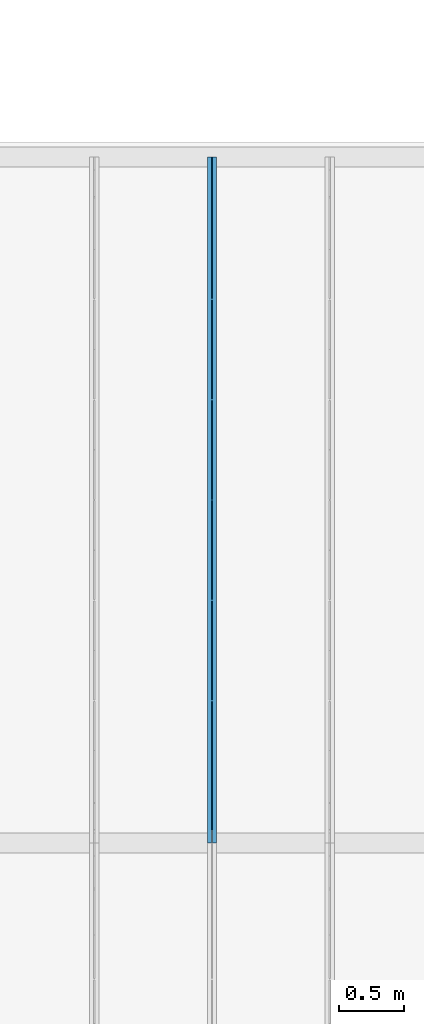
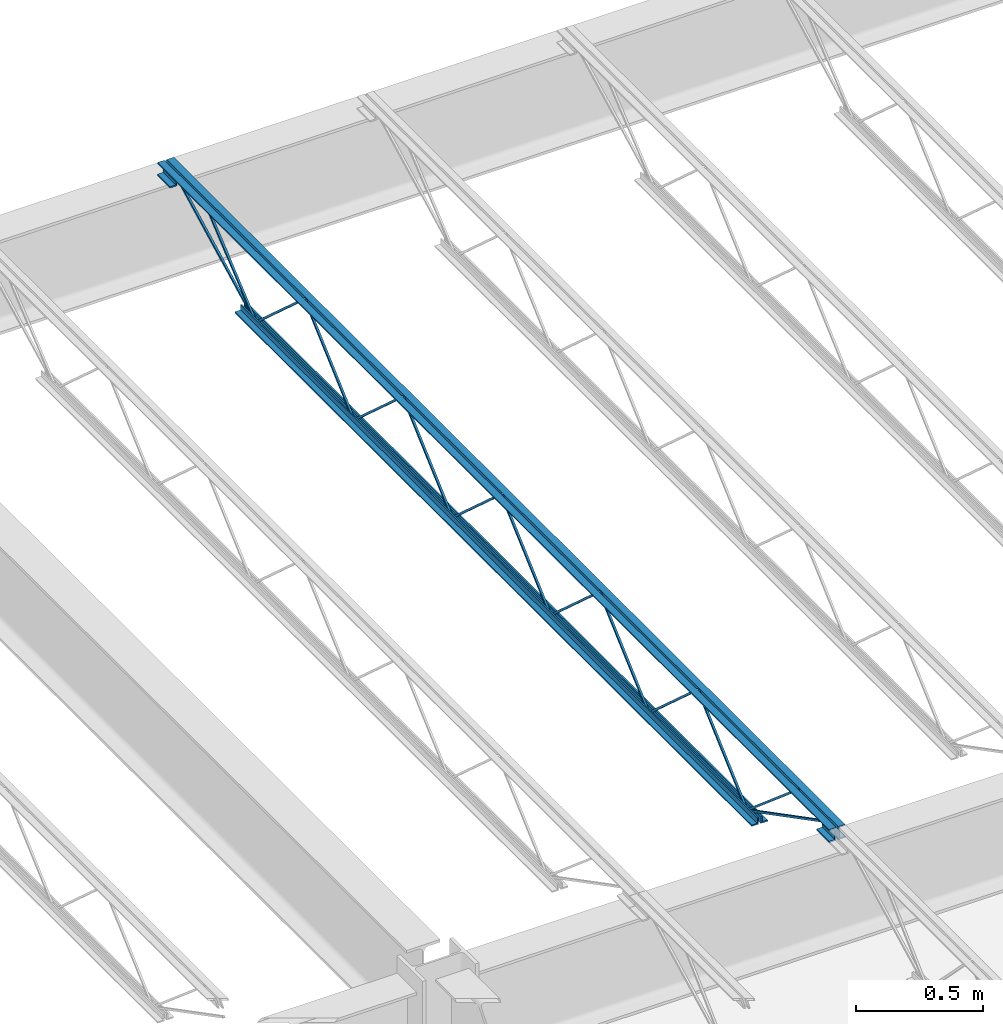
# One storey, part 96 of 119: 1 beam.
"""IFC2X3 building model written with IfcOpenShell, lengths in metres."""

import ifcopenshell
import ifcopenshell.guid

model = None  # the IFC model being written
_history = None  # IfcOwnerHistory: only IFC2X3 demands one
_inside = {}  # id of a spatial element -> (the spatial element, [elements in it])
_under = {}  # id of a project, library or spatial element -> (it, [spatial elements below it])
_declared = {}  # id of a project -> (the project, [libraries it declares])
_typed = {}  # id of a type object -> (the type object, [elements of that type])
_made_of = {}  # id of a material, layer set ... -> (it, [elements and type objects made of it])


def new_model(schema):
    """Start an empty IFC model of exactly this schema.

    Asked for "IFC4X3", IfcOpenShell would pick the latest addendum, in which some entities
    have other attributes; the version numbers below select the first issue.
    IFC2X3 requires an IfcOwnerHistory on every rooted entity: one is made here for all.
    """
    global model, _history
    if schema == "IFC4X3":
        model = ifcopenshell.file(schema_version=(4, 3, 0, 0))
    else:
        model = ifcopenshell.file(schema=schema)
    _inside.clear()
    _under.clear()
    _declared.clear()
    _typed.clear()
    _made_of.clear()
    _history = None
    if model.schema == "IFC2X3":
        org = make("IfcOrganization", Name="unknown")
        user = make(
            "IfcPersonAndOrganization",
            ThePerson=make("IfcPerson", FamilyName="unknown"),
            TheOrganization=org,
        )
        app = make(
            "IfcApplication",
            ApplicationDeveloper=org,
            Version="unknown",
            ApplicationFullName="unknown",
            ApplicationIdentifier="unknown",
        )
        _history = make(
            "IfcOwnerHistory",
            OwningUser=user,
            OwningApplication=app,
            ChangeAction="ADDED",
            CreationDate=0,
        )
    return model


def make(cls, **values):
    """One entity of the class cls with the attributes given. An attribute that is None is left unset."""
    return model.create_entity(
        cls, **{name: value for name, value in values.items() if value is not None}
    )


def entity(cls, *values):
    """Any entity or typed value of the class cls, its attributes in the order of the schema. None: left unset."""
    e = model.create_entity(cls)
    for i, value in enumerate(values):
        if value is not None:
            e[i] = value
    return e


def rooted(cls, **values):
    """An entity with a GlobalId (a new one), such as an element, a storey or a relation."""
    return make(cls, GlobalId=ifcopenshell.guid.new(), OwnerHistory=_history, **values)


def si_unit(unit_type, name, prefix=None):
    """IfcSIUnit, for example si_unit("LENGTHUNIT", "METRE", prefix="MILLI")."""
    return make("IfcSIUnit", UnitType=unit_type, Prefix=prefix, Name=name)


def converted_unit(unit_type, name, factor, base, dimensions=None, offset=None):
    """IfcConversionBasedUnit, such as the inch: factor (a typed value) times the base unit."""
    return make(
        "IfcConversionBasedUnit"
        if offset is None
        else "IfcConversionBasedUnitWithOffset",
        ConversionOffset=offset,
        Dimensions=None
        if dimensions is None
        else entity("IfcDimensionalExponents", *dimensions),
        UnitType=unit_type,
        Name=name,
        ConversionFactor=make(
            "IfcMeasureWithUnit", ValueComponent=factor, UnitComponent=base
        ),
    )


def assignment(units):
    """IfcUnitAssignment: the units of a project."""
    return None if units is None else make("IfcUnitAssignment", Units=units)


def point(xyz):
    """IfcCartesianPoint."""
    return None if xyz is None else make("IfcCartesianPoint", Coordinates=xyz)


def direction(xyz):
    """IfcDirection."""
    return None if xyz is None else make("IfcDirection", DirectionRatios=xyz)


def frame(location, z_axis=None, x_axis=None):
    """IfcAxis2Placement3D, a coordinate frame: its origin and axes. An axis left out is left unset."""
    return make(
        "IfcAxis2Placement3D",
        Location=point(location),
        Axis=direction(z_axis),
        RefDirection=direction(x_axis),
    )


def origin():
    """The frame at (0, 0, 0) with its axes left unset."""
    return frame((0.0, 0.0, 0.0))


def place(relative_to, where):
    """IfcLocalPlacement: puts the frame where relative to a parent placement (None: the world)."""
    return make(
        "IfcLocalPlacement", PlacementRelTo=relative_to, RelativePlacement=where
    )


def context(
    kind, dimensions, precision=None, world=None, true_north=None, identifier=None
):
    """IfcGeometricRepresentationContext, for example the 3D "Model" context."""
    return make(
        "IfcGeometricRepresentationContext",
        ContextIdentifier=identifier,
        ContextType=kind,
        CoordinateSpaceDimension=dimensions,
        Precision=precision,
        WorldCoordinateSystem=world,
        TrueNorth=true_north,
    )


def project(units=None, contexts=None):
    """IfcProject with its units and contexts."""
    return rooted(
        "IfcProject",
        Name="project",
        RepresentationContexts=contexts,
        UnitsInContext=assignment(units),
    )


def spatial(cls, under=None, at=None, **own):
    """A site, building, storey or space (cls), placed at a placement, below another one or the project."""
    s = rooted(cls, ObjectPlacement=at, **own)
    if under is not None:
        _under.setdefault(under.id(), (under, []))[1].append(s)
    return s


def faces_of(points, faces, orient=None, outer=None):
    """IfcFace entities. A face is a list of loops; a loop is a list of indices into points, from 0.

    orient and outer hold one flag for each loop. By default every Orientation is true, the
    first loop of a face is its IfcFaceOuterBound and the others are IfcFaceBound.
    """
    made = []
    for i, loops in enumerate(faces):
        bounds = []
        for j, loop in enumerate(loops):
            is_outer = j == 0 if outer is None else outer[i][j]
            bounds.append(
                make(
                    "IfcFaceOuterBound" if is_outer else "IfcFaceBound",
                    Bound=make("IfcPolyLoop", Polygon=[points[k] for k in loop]),
                    Orientation=True if orient is None else orient[i][j],
                )
            )
        made.append(make("IfcFace", Bounds=bounds))
    return made


def face_set(faces, orient=None, outer=None):
    """The faces of one IfcConnectedFaceSet. surface_model builds it on its shared points."""
    return ("IfcConnectedFaceSet", faces, orient, outer)


def surface_model(cls, points, shells):
    """IfcFaceBasedSurfaceModel or IfcShellBasedSurfaceModel (cls): surfaces that need not close."""
    shared = [point(p) for p in points]
    made = [make(c, CfsFaces=faces_of(shared, fs, o, b)) for c, fs, o, b in shells]
    if cls == "IfcFaceBasedSurfaceModel":
        return make(cls, FbsmFaces=made)
    return make(cls, SbsmBoundary=made)


def shape(context_of_items, identifier, shape_type, items):
    """IfcShapeRepresentation: the items that make up one representation, for example the "Body"."""
    return make(
        "IfcShapeRepresentation",
        ContextOfItems=context_of_items,
        RepresentationIdentifier=identifier,
        RepresentationType=shape_type,
        Items=items,
    )


def made_of(thing, what):
    """Note that an element or type object is made of a material, layer set ...; save() writes the relation."""
    if what is not None:
        _made_of.setdefault(what.id(), (what, []))[1].append(thing)
    return thing


def element(
    cls,
    number,
    at=None,
    inside=None,
    cuts=None,
    type_object=None,
    material=None,
    context=None,
    identifier="Body",
    shape_type=None,
    held_by="IfcProductDefinitionShape",
    body=None,
    shapes=None,
    **own,
):
    """One element of the class cls, such as IfcWall. Its Tag is "e" and its number.

    at: its placement. inside: the storey or other place that contains it. cuts: it is an
    opening in that element (IfcRelVoidsElement). A single representation is given by context,
    identifier, shape_type and body (its items); several are given by shapes. held_by: the class
    of the entity that holds the representations. save() writes the other relations.
    """
    e = rooted(cls, Tag="e%d" % number, ObjectPlacement=at, **own)
    if body is not None:
        shapes = [shape(context, identifier, shape_type, body)]
    if shapes is not None:
        e.Representation = make(held_by, Representations=shapes)
    if inside is not None:
        _inside.setdefault(inside.id(), (inside, []))[1].append(e)
    if cuts is not None:
        rooted(
            "IfcRelVoidsElement", RelatingBuildingElement=cuts, RelatedOpeningElement=e
        )
    if type_object is not None:
        _typed.setdefault(type_object.id(), (type_object, []))[1].append(e)
    return made_of(e, material)


def aggregate(whole, parts):
    """IfcRelAggregates: a whole, such as a stair, and the parts it consists of."""
    return rooted("IfcRelAggregates", RelatingObject=whole, RelatedObjects=parts)


def save(model, path):
    """Write the relations noted so far, then the file.

    IfcRelAggregates (storeys below a building ...), IfcRelContainedInSpatialStructure (elements
    in a storey), IfcRelDefinesByType, IfcRelAssociatesMaterial and IfcRelDeclares: one each for
    every whole, place, type object, material and project.
    """
    for whole, parts in _under.values():
        aggregate(whole, parts)
    for where, things in _inside.values():
        rooted(
            "IfcRelContainedInSpatialStructure",
            RelatedElements=things,
            RelatingStructure=where,
        )
    for kind, things in _typed.values():
        rooted("IfcRelDefinesByType", RelatedObjects=things, RelatingType=kind)
    for what, things in _made_of.values():
        rooted("IfcRelAssociatesMaterial", RelatedObjects=things, RelatingMaterial=what)
    for by, libraries in _declared.values():
        rooted("IfcRelDeclares", RelatingContext=by, RelatedDefinitions=libraries)
    model.write(path)


model = new_model("IFC2X3")

# Units and contexts
model_context = context("Model", 3, precision=1e-09, world=origin())
plan_context = context("Plan", 3, precision=1e-09, world=origin())
ifc_project = project(units=[si_unit("LENGTHUNIT", "METRE"), si_unit("AREAUNIT", "SQUARE_METRE"), si_unit("VOLUMEUNIT", "CUBIC_METRE"), converted_unit("PLANEANGLEUNIT", "DEGREE", entity("IfcRatioMeasure", 0.01745329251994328), si_unit("PLANEANGLEUNIT", "RADIAN"), dimensions=[0, 0, 0, 0, 0, 0, 0]), si_unit("TIMEUNIT", "SECOND")], contexts=[model_context, plan_context])

# Site, building, storey
site_placement = place(None, origin())
site = spatial("IfcSite", under=ifc_project, at=site_placement, Name="Default", CompositionType="ELEMENT")
building_placement = place(site_placement, origin())
building = spatial("IfcBuilding", under=site, at=building_placement, CompositionType="ELEMENT")
storey_placement = place(building_placement, frame((0.0, 0.0, 4.570000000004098)))
storey = spatial("IfcBuildingStorey", under=building, at=storey_placement, Name="Second Floor", CompositionType="ELEMENT", Elevation=4.570000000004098)

# Beam
beam_placement = place(storey_placement, frame((-24.65389285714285, 44.78049999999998, 4.323999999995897), z_axis=(0.0, 0.0, 1.0), x_axis=(-1.0, 0.0, 0.0)))
element("IfcBeam", 1, at=beam_placement, inside=storey, Name="M_K-Series Bar Joist-Rod Web:14K1:14K1", ObjectType="M_K-Series Bar Joist-Rod Web:14K1", context=model_context, shape_type="SurfaceModel", body=[
    surface_model("IfcFaceBasedSurfaceModel", [(-0.03200000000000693, -2.266000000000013, 0.01110000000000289), (-0.04150000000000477, -2.266000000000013, 0.01110000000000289), (-0.04150000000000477, -2.266000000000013, 0.001600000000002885), (-0.03200000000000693, -2.266000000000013, 0.001600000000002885), (-0.04150000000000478, -2.264645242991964, 0.01110000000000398), (-0.03200000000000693, -2.264645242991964, 0.01110000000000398), (-0.04150000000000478, -2.26100475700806, 0.001600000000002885), (-0.04150000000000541, -1.878854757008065, 0.3449000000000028), (-0.04150000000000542, -1.876145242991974, 0.3449000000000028), (-0.04150000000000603, -1.493995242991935, 0.001600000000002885), (-0.04150000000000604, -1.489000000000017, 0.001600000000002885), (-0.04150000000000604, -1.489000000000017, 0.01110000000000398), (-0.04150000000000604, -1.490354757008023, 0.01110000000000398), (-0.04150000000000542, -1.872504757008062, 0.3544000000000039), (-0.04150000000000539, -1.882495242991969, 0.3544000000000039), (-0.03200000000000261, -2.26100475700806, 0.001600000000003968), (-0.03200000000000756, -1.878854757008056, 0.3449000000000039), (-0.03200000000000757, -1.876145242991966, 0.3449000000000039), (-0.0320000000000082, -1.493995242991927, 0.001600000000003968), (-0.0320000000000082, -1.489000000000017, 0.001600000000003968), (-0.0320000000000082, -1.489000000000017, 0.01110000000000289), (-0.0320000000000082, -1.490354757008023, 0.01110000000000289), (-0.03200000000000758, -1.872504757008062, 0.3544000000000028), (-0.03200000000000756, -1.882495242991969, 0.3544000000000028), (-0.03200000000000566, -3.04300000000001, 0.01110000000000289), (-0.04150000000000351, -3.04300000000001, 0.01110000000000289), (-0.04150000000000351, -3.04300000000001, 0.001600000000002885), (-0.03200000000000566, -3.04300000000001, 0.001600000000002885), (-0.04150000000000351, -3.041645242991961, 0.01110000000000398), (-0.03200000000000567, -3.041645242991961, 0.01110000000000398), (-0.04150000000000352, -3.038004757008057, 0.001600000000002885), (-0.04150000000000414, -2.655854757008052, 0.3449000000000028), (-0.04150000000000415, -2.653145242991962, 0.3449000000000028), (-0.04150000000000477, -2.270995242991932, 0.001600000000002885), (-0.04150000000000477, -2.266000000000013, 0.01110000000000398), (-0.04150000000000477, -2.26735475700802, 0.01110000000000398), (-0.04150000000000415, -2.649504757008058, 0.3544000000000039), (-0.04150000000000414, -2.659495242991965, 0.3544000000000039), (-0.03200000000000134, -3.038004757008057, 0.001600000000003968), (-0.0320000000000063, -2.655854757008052, 0.3449000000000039), (-0.0320000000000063, -2.653145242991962, 0.3449000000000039), (-0.03200000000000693, -2.270995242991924, 0.001600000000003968), (-0.03200000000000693, -2.266000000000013, 0.001600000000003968), (-0.03200000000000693, -2.26735475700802, 0.01110000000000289), (-0.03200000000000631, -2.649504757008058, 0.3544000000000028), (-0.03200000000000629, -2.659495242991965, 0.3544000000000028), (-0.0320000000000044, -3.820000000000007, 0.01110000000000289), (-0.04150000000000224, -3.820000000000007, 0.01110000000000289), (-0.04150000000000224, -3.820000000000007, 0.001600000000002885), (-0.0320000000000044, -3.820000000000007, 0.001600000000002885), (-0.04150000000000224, -3.818645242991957, 0.01110000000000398), (-0.0320000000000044, -3.818645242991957, 0.01110000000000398), (-0.04150000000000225, -3.815004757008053, 0.001600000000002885), (-0.04150000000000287, -3.432854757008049, 0.3449000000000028), (-0.04150000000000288, -3.430145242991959, 0.3449000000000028), (-0.0415000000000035, -3.04799524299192, 0.001600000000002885), (-0.04150000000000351, -3.043000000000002, 0.001600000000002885), (-0.04150000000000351, -3.04300000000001, 0.01110000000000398), (-0.0415000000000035, -3.044354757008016, 0.01110000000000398), (-0.04150000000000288, -3.426504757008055, 0.3544000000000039), (-0.04150000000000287, -3.436495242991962, 0.3544000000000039), (-0.03200000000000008, -3.815004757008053, 0.001600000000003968), (-0.03200000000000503, -3.432854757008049, 0.3449000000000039), (-0.03200000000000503, -3.430145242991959, 0.3449000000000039), (-0.03200000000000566, -3.04799524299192, 0.001600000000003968), (-0.03200000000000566, -3.04300000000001, 0.001600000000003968), (-0.03200000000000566, -3.043000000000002, 0.01110000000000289), (-0.03200000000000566, -3.044354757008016, 0.01110000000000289), (-0.03200000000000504, -3.426504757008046, 0.3544000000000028), (-0.03200000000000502, -3.436495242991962, 0.3544000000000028), (-0.03200000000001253, -1.489000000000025, 0.01109999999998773), (-0.04150000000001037, -1.489000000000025, 0.01109999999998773), (-0.04150000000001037, -1.489000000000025, 0.001599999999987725), (-0.03200000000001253, -1.489000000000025, 0.001599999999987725), (-0.04150000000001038, -1.487645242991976, 0.01109999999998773), (-0.03200000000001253, -1.487645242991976, 0.01109999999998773), (-0.04150000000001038, -1.484004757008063, 0.001599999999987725), (-0.04150000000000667, -1.101854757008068, 0.3448999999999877), (-0.04150000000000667, -1.099145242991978, 0.3448999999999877), (-0.0415000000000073, -0.7169952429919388, 0.001599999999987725), (-0.04150000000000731, -0.7120000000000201, 0.001599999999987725), (-0.04150000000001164, -0.7120000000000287, 0.01109999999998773), (-0.04150000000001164, -0.7133547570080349, 0.01109999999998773), (-0.04150000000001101, -1.095504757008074, 0.3543999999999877), (-0.04150000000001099, -1.10549524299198, 0.3543999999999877), (-0.03200000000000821, -1.484004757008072, 0.001599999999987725), (-0.03200000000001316, -1.101854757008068, 0.3448999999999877), (-0.03200000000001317, -1.099145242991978, 0.3448999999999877), (-0.03200000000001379, -0.7169952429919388, 0.001599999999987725), (-0.0320000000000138, -0.7120000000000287, 0.001599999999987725), (-0.03200000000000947, -0.7120000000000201, 0.01109999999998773), (-0.03200000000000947, -0.7133547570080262, 0.01109999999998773), (-0.03200000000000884, -1.095504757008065, 0.3543999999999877), (-0.03200000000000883, -1.105495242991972, 0.3543999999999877), (-0.03200000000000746, -4.597000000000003, 0.01110000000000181), (-0.0415000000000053, -4.597000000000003, 0.01110000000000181), (-0.0415000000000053, -4.597000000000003, 0.001600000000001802), (-0.03200000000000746, -4.597000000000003, 0.001600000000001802), (-0.0415000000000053, -4.595645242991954, 0.01110000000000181), (-0.03200000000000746, -4.595645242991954, 0.01110000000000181), (-0.04150000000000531, -4.592004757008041, 0.001600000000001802), (-0.04150000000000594, -4.209854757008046, 0.3449000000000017), (-0.04150000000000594, -4.207145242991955, 0.3449000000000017), (-0.04150000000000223, -3.824995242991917, 0.001600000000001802), (-0.04150000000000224, -3.819999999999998, 0.001600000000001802), (-0.04150000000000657, -3.820000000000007, 0.01110000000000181), (-0.04150000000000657, -3.821354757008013, 0.01110000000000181), (-0.04150000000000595, -4.203504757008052, 0.3544000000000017), (-0.04150000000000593, -4.213495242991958, 0.3544000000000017), (-0.03200000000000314, -4.592004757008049, 0.001600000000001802), (-0.03200000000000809, -4.209854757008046, 0.3449000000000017), (-0.0320000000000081, -4.207145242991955, 0.3449000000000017), (-0.03200000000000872, -3.824995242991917, 0.001600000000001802), (-0.03200000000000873, -3.820000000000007, 0.001600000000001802), (-0.0320000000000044, -3.819999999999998, 0.01110000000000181), (-0.03200000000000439, -3.821354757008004, 0.01110000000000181), (-0.03200000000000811, -4.203504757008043, 0.3544000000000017), (-0.03200000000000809, -4.213495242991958, 0.3544000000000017), (-0.04150000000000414, 0.0, 0.3559999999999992), (-0.07350000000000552, 0.0, 0.3559999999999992), (-0.07350000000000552, 0.0, 0.3494999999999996), (-0.04800000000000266, 0.0, 0.3494999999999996), (-0.04800000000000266, 0.0, 0.3239999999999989), (-0.04150000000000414, 0.0, 0.3239999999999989), (-0.0320000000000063, 0.0, 0.3559999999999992), (-0.0320000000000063, 0.0, 0.3239999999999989), (-0.02550000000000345, 0.0, 0.3239999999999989), (-0.02550000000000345, 0.0, 0.3494999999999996), (0.0, 0.0, 0.3494999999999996), (0.0, 0.0, 0.3559999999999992), (-0.04150000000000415, -5.309000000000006, 0.3559999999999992), (-0.07350000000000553, -5.309000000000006, 0.3559999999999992), (-0.07350000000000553, -5.309000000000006, 0.3494999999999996), (-0.04800000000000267, -5.309000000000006, 0.3494999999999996), (-0.04800000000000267, -5.309000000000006, 0.3239999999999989), (-0.04150000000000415, -5.309000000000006, 0.3239999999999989), (-0.0320000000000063, -5.309000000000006, 0.3559999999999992), (-0.0320000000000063, -5.309000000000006, 0.3239999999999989), (-0.02550000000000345, -5.309000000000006, 0.3239999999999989), (-0.02550000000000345, -5.309000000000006, 0.3494999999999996), (0.0, -5.309000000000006, 0.3494999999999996), (0.0, -5.309000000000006, 0.3559999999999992), (-0.03200000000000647, -5.20900000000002, 0.2924999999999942), (0.0, -5.20900000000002, 0.2924999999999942), (0.0, -5.20900000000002, 0.2989999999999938), (-0.02550000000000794, -5.20900000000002, 0.2989999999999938), (-0.02550000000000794, -5.20900000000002, 0.3239999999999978), (-0.03200000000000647, -5.20900000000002, 0.3239999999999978), (-0.0735000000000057, -5.20900000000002, 0.2924999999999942), (-0.0415000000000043, -5.20900000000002, 0.2924999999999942), (-0.0415000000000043, -5.20900000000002, 0.3239999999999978), (-0.04800000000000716, -5.20900000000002, 0.3239999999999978), (-0.04800000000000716, -5.20900000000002, 0.2989999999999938), (-0.0735000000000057, -5.20900000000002, 0.2989999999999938), (-0.0320000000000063, -5.309000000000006, 0.2924999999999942), (0.0, -5.309000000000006, 0.2924999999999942), (0.0, -5.309000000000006, 0.2989999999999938), (-0.02550000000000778, -5.309000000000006, 0.2989999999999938), (-0.02550000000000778, -5.309000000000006, 0.3239999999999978), (-0.0320000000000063, -5.309000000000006, 0.3239999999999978), (-0.07350000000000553, -5.309000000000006, 0.2924999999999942), (-0.04150000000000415, -5.309000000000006, 0.2924999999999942), (-0.04150000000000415, -5.309000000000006, 0.3239999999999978), (-0.048000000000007, -5.309000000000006, 0.3239999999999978), (-0.048000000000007, -5.309000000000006, 0.2989999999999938), (-0.07350000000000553, -5.309000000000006, 0.2989999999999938), (-0.04150000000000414, 0.0, 0.2924999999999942), (-0.04150000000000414, 0.0, 0.3239999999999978), (-0.04800000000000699, 0.0, 0.3239999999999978), (-0.04800000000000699, 0.0, 0.2989999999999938), (-0.07350000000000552, 0.0, 0.2989999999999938), (-0.07350000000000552, 0.0, 0.2924999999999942), (-0.0320000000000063, 0.0, 0.2924999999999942), (0.0, 0.0, 0.2924999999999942), (0.0, 0.0, 0.2989999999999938), (-0.02550000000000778, 0.0, 0.2989999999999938), (-0.02550000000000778, 0.0, 0.3239999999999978), (-0.0320000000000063, 0.0, 0.3239999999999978), (-0.04150000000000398, -0.1000000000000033, 0.2924999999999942), (-0.04150000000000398, -0.1000000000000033, 0.3239999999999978), (-0.04800000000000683, -0.1000000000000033, 0.3239999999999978), (-0.04800000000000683, -0.1000000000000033, 0.2989999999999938), (-0.07350000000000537, -0.1000000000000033, 0.2989999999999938), (-0.07350000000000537, -0.1000000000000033, 0.2924999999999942), (-0.03200000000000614, -0.1000000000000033, 0.2924999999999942), (0.0, -0.1000000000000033, 0.2924999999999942), (0.0, -0.1000000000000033, 0.2989999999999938), (-0.02550000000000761, -0.1000000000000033, 0.2989999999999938), (-0.02550000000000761, -0.1000000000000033, 0.3239999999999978), (-0.03200000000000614, -0.1000000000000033, 0.3239999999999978), (-0.04150000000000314, -0.6119999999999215, 0.0), (-0.04150000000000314, -0.6119999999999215, 0.03199999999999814), (-0.04800000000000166, -0.6119999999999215, 0.03199999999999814), (-0.04800000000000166, -0.6119999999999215, 0.006499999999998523), (-0.07350000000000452, -0.6119999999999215, 0.006499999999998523), (-0.07350000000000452, -0.6119999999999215, 0.0), (-0.0320000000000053, -0.6119999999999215, 0.0), (0.0, -0.6119999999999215, 0.0), (0.0, -0.6119999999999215, 0.006499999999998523), (-0.02550000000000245, -0.6119999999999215, 0.006499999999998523), (-0.02550000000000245, -0.6119999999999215, 0.03199999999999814), (-0.0320000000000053, -0.6119999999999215, 0.03199999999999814), (-0.04150000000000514, -4.696999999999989, 0.0), (-0.04150000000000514, -4.696999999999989, 0.03199999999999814), (-0.04800000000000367, -4.696999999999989, 0.03199999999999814), (-0.04800000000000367, -4.696999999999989, 0.006499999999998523), (-0.07350000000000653, -4.696999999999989, 0.006499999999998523), (-0.07350000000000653, -4.696999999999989, 0.0), (-0.0320000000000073, -4.696999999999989, 0.0), (0.0, -4.696999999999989, 0.0), (0.0, -4.696999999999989, 0.006499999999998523), (-0.02550000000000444, -4.696999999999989, 0.006499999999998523), (-0.02550000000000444, -4.696999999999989, 0.03199999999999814), (-0.0320000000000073, -4.696999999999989, 0.03199999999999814), (-0.03200000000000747, -4.594811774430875, 0.01056594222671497), (-0.0415000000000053, -4.594811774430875, 0.01056594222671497), (-0.0415000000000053, -4.599188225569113, 0.00213405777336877), (-0.03200000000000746, -4.599188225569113, 0.00213405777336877), (-0.03200000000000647, -5.207840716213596, 0.3287499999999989), (-0.0320000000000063, -5.308999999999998, 0.3287499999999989), (-0.0320000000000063, -5.308999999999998, 0.3192499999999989), (-0.03200000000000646, -5.210159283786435, 0.3192499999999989), (-0.04150000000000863, -5.210159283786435, 0.3192499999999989), (-0.0415000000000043, -5.207840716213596, 0.3287499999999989), (-0.04150000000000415, -5.308999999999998, 0.3287499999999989), (-0.04150000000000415, -5.309000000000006, 0.3192499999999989), (-0.03200000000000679, -5.005457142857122, 0.3417000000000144), (-0.04150000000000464, -5.005457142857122, 0.3417000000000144), (-0.04150000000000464, -5.005457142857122, 0.3322000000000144), (-0.03200000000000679, -5.005457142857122, 0.3322000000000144), (-0.04150000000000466, -4.991034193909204, 0.3417000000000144), (-0.03200000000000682, -4.991034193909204, 0.3417000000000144), (-0.04150000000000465, -4.994480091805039, 0.3322000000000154), (-0.0415000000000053, -4.600045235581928, 0.002704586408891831), (-0.04150000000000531, -4.593954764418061, 0.009995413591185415), (-0.03200000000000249, -4.994480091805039, 0.3322000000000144), (-0.03200000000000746, -4.600045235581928, 0.002704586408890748), (-0.03200000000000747, -4.593954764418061, 0.009995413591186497), (-0.03200000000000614, -0.09781177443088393, 0.3197840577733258), (-0.03200000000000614, -0.1021882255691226, 0.328215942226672), (-0.04150000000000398, -0.1021882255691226, 0.328215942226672), (-0.04150000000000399, -0.09781177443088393, 0.3197840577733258), (-0.03200000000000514, -0.7098117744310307, 0.002134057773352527), (-0.03200000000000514, -0.7141882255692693, 0.01056594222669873), (-0.04150000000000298, -0.7141882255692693, 0.01056594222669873), (-0.04150000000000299, -0.7098117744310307, 0.002134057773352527), (-0.0320000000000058, -0.3059055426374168, 0.3460340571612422), (-0.0320000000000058, -0.3120658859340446, 0.35326594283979), (-0.04150000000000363, -0.3120658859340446, 0.3532659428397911), (-0.04150000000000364, -0.3059055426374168, 0.3460340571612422), (-0.03200000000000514, -0.7089198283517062, 0.002734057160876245), (-0.03200000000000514, -0.7150801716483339, 0.00996594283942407), (-0.04150000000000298, -0.7150801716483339, 0.00996594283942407), (-0.04150000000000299, -0.7089198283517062, 0.002734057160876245)], [face_set([[[0, 1, 2, 3]], [[1, 4, 5, 0]], [[2, 6, 7, 8, 9, 10, 11, 12, 13, 14, 4, 1]], [[3, 2, 6, 15]], [[0, 3, 15, 16, 17, 18, 19, 20, 21, 22, 23, 5]], [[4, 5, 23, 14]], [[15, 16, 7, 6]], [[14, 13, 22, 23]], [[16, 7, 8, 17]], [[13, 12, 21, 22]], [[17, 8, 9, 18]], [[20, 11, 10, 19]], [[12, 11, 20, 21]], [[18, 9, 10, 19]]]), face_set([[[24, 25, 26, 27]], [[25, 28, 29, 24]], [[26, 30, 31, 32, 33, 2, 34, 35, 36, 37, 28, 25]], [[27, 26, 30, 38]], [[24, 27, 38, 39, 40, 41, 42, 0, 43, 44, 45, 29]], [[28, 29, 45, 37]], [[38, 39, 31, 30]], [[37, 36, 44, 45]], [[39, 31, 32, 40]], [[36, 35, 43, 44]], [[40, 32, 33, 41]], [[0, 34, 2, 42]], [[35, 34, 0, 43]], [[41, 33, 2, 42]]]), face_set([[[46, 47, 48, 49]], [[47, 50, 51, 46]], [[48, 52, 53, 54, 55, 56, 57, 58, 59, 60, 50, 47]], [[49, 48, 52, 61]], [[46, 49, 61, 62, 63, 64, 65, 66, 67, 68, 69, 51]], [[50, 51, 69, 60]], [[61, 62, 53, 52]], [[60, 59, 68, 69]], [[62, 53, 54, 63]], [[59, 58, 67, 68]], [[63, 54, 55, 64]], [[66, 57, 56, 65]], [[58, 57, 66, 67]], [[64, 55, 56, 65]]]), face_set([[[70, 71, 72, 73]], [[71, 74, 75, 70]], [[72, 76, 77, 78, 79, 80, 81, 82, 83, 84, 74, 71]], [[73, 72, 76, 85]], [[70, 73, 85, 86, 87, 88, 89, 90, 91, 92, 93, 75]], [[74, 75, 93, 84]], [[85, 86, 77, 76]], [[84, 83, 92, 93]], [[86, 77, 78, 87]], [[83, 82, 91, 92]], [[87, 78, 79, 88]], [[90, 81, 80, 89]], [[82, 81, 90, 91]], [[88, 79, 80, 89]]]), face_set([[[94, 95, 96, 97]], [[95, 98, 99, 94]], [[96, 100, 101, 102, 103, 104, 105, 106, 107, 108, 98, 95]], [[97, 96, 100, 109]], [[94, 97, 109, 110, 111, 112, 113, 114, 115, 116, 117, 99]], [[98, 99, 117, 108]], [[109, 110, 101, 100]], [[108, 107, 116, 117]], [[110, 101, 102, 111]], [[107, 106, 115, 116]], [[111, 102, 103, 112]], [[114, 105, 104, 113]], [[106, 105, 114, 115]], [[112, 103, 104, 113]]]), face_set([[[118, 119, 120, 121, 122, 123]], [[124, 125, 126, 127, 128, 129]], [[130, 131, 132, 133, 134, 135]], [[136, 137, 138, 139, 140, 141]], [[123, 118, 130, 135]], [[122, 123, 135, 134]], [[121, 133, 134, 122]], [[120, 121, 133, 132]], [[119, 131, 132, 120]], [[118, 130, 131, 119]], [[129, 141, 136, 124]], [[128, 129, 141, 140]], [[127, 128, 140, 139]], [[126, 127, 139, 138]], [[125, 126, 138, 137]], [[124, 136, 137, 125]]]), face_set([[[142, 143, 144, 145, 146, 147]], [[148, 149, 150, 151, 152, 153]], [[154, 155, 156, 157, 158, 159]], [[160, 161, 162, 163, 164, 165]], [[147, 159, 154, 142]], [[146, 158, 159, 147]], [[145, 146, 158, 157]], [[144, 156, 157, 145]], [[143, 144, 156, 155]], [[142, 143, 155, 154]], [[153, 165, 160, 148]], [[152, 164, 165, 153]], [[151, 163, 164, 152]], [[150, 162, 163, 151]], [[149, 150, 162, 161]], [[148, 149, 161, 160]]]), face_set([[[166, 167, 168, 169, 170, 171]], [[172, 173, 174, 175, 176, 177]], [[178, 179, 180, 181, 182, 183]], [[184, 185, 186, 187, 188, 189]], [[171, 166, 178, 183]], [[170, 182, 183, 171]], [[169, 181, 182, 170]], [[168, 180, 181, 169]], [[167, 179, 180, 168]], [[166, 167, 179, 178]], [[177, 189, 184, 172]], [[176, 188, 189, 177]], [[175, 176, 188, 187]], [[174, 186, 187, 175]], [[173, 174, 186, 185]], [[172, 173, 185, 184]]]), face_set([[[190, 191, 192, 193, 194, 195]], [[196, 197, 198, 199, 200, 201]], [[202, 203, 204, 205, 206, 207]], [[208, 209, 210, 211, 212, 213]], [[195, 190, 202, 207]], [[194, 206, 207, 195]], [[193, 205, 206, 194]], [[192, 204, 205, 193]], [[191, 203, 204, 192]], [[190, 191, 203, 202]], [[201, 213, 208, 196]], [[200, 212, 213, 201]], [[199, 200, 212, 211]], [[198, 210, 211, 199]], [[197, 198, 210, 209]], [[196, 197, 209, 208]]]), face_set([[[214, 215, 216, 217]], [[217, 214, 218, 219, 220, 221]], [[216, 217, 221, 222]], [[215, 223, 224, 225, 222, 216]], [[214, 218, 223, 215]], [[219, 224, 225, 220]], [[222, 221, 220, 225]], [[218, 219, 224, 223]]]), face_set([[[226, 227, 228, 229]], [[227, 230, 231, 226]], [[228, 232, 233, 234, 230, 227]], [[229, 228, 232, 235]], [[226, 229, 235, 236, 237, 231]], [[237, 234, 233, 236]], [[230, 234, 237, 231]], [[235, 232, 233, 236]]]), face_set([[[238, 239, 240, 241]], [[242, 243, 244, 245]], [[241, 245, 242, 238]], [[240, 244, 245, 241]], [[239, 240, 244, 243]], [[238, 239, 243, 242]]]), face_set([[[246, 247, 248, 249]], [[250, 251, 252, 253]], [[249, 253, 250, 246]], [[248, 252, 253, 249]], [[247, 248, 252, 251]], [[246, 247, 251, 250]]])]),
])

save(model, "model.ifc")
